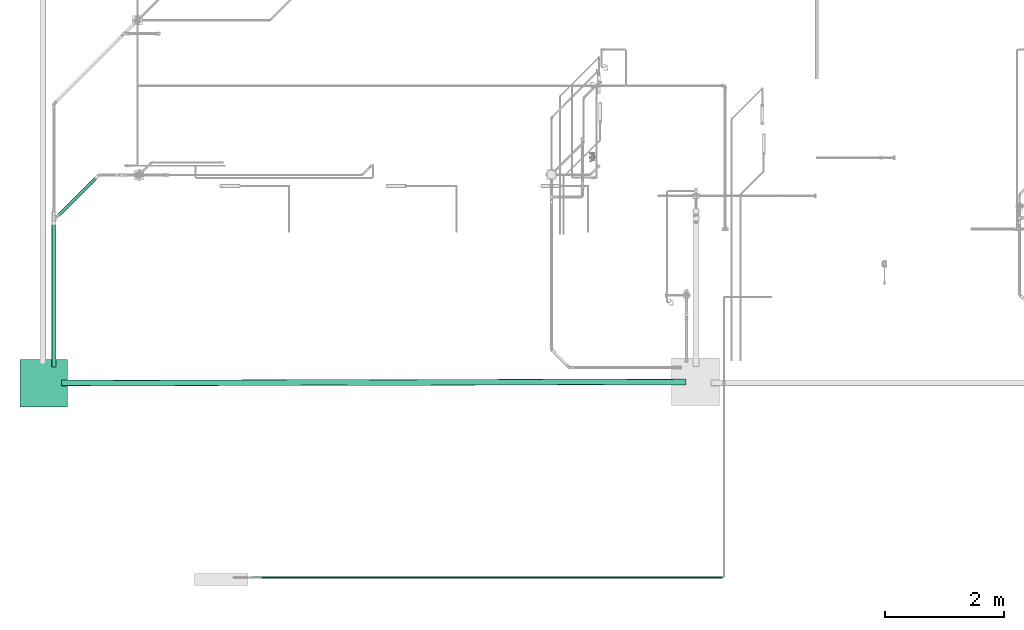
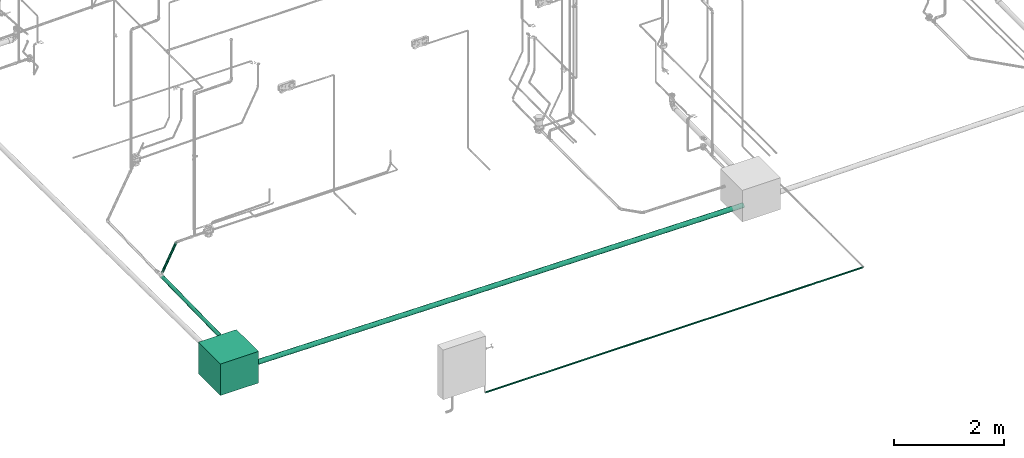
# One storey, part 1 of 589: 4 flow segments, 1 flow terminal.
"""IFC2X3 building model written with IfcOpenShell, lengths in millimetres."""

from ifc_helpers import new_model, entity, si_unit, converted_unit, derived_unit, direction, frame, frame_2d, origin, origin_2d_with_axis, place, context, subcontext, project, spatial, polyline, rectangle, circle, outline, extrude, source, transform, mapped, material, material_list, type_object, type_shapes, element, save


model = new_model("IFC2X3")

# Units and contexts
model_context = context("Model", 3, precision=0.01, world=origin(), true_north=direction((6.123031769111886e-17, 1.0)))
body_context = subcontext(model_context, "Body", "Model", "MODEL_VIEW")
ifc_project = project(units=[si_unit("LENGTHUNIT", "METRE", prefix="MILLI"), si_unit("AREAUNIT", "SQUARE_METRE"), si_unit("VOLUMEUNIT", "CUBIC_METRE"), converted_unit("PLANEANGLEUNIT", "DEGREE", entity("IfcRatioMeasure", 0.017453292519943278), si_unit("PLANEANGLEUNIT", "RADIAN"), dimensions=[0, 0, 0, 0, 0, 0, 0]), si_unit("MASSUNIT", "GRAM", prefix="KILO"), derived_unit("MASSDENSITYUNIT", [(si_unit("MASSUNIT", "GRAM", prefix="KILO"), 1), (si_unit("LENGTHUNIT", "METRE"), -3)]), derived_unit("IONCONCENTRATIONUNIT", [(si_unit("MASSUNIT", "GRAM", prefix="KILO"), 1), (si_unit("LENGTHUNIT", "METRE"), -3)]), derived_unit("MOMENTOFINERTIAUNIT", [(si_unit("LENGTHUNIT", "METRE"), 4)]), si_unit("TIMEUNIT", "SECOND"), si_unit("FREQUENCYUNIT", "HERTZ"), si_unit("THERMODYNAMICTEMPERATUREUNIT", "DEGREE_CELSIUS"), derived_unit("THERMALTRANSMITTANCEUNIT", [(si_unit("MASSUNIT", "GRAM", prefix="KILO"), 1), (si_unit("THERMODYNAMICTEMPERATUREUNIT", "KELVIN"), -1), (si_unit("TIMEUNIT", "SECOND"), -3)]), derived_unit("THERMALCONDUCTANCEUNIT", [(si_unit("MASSUNIT", "GRAM", prefix="KILO"), 1), (si_unit("THERMODYNAMICTEMPERATUREUNIT", "KELVIN"), -1), (si_unit("TIMEUNIT", "SECOND"), -3), (si_unit("LENGTHUNIT", "METRE"), 1)]), derived_unit("VOLUMETRICFLOWRATEUNIT", [(si_unit("LENGTHUNIT", "METRE"), 3), (si_unit("TIMEUNIT", "SECOND"), -1)]), derived_unit("MASSFLOWRATEUNIT", [(si_unit("MASSUNIT", "GRAM", prefix="KILO"), 1), (si_unit("TIMEUNIT", "SECOND"), -1)]), derived_unit("ROTATIONALFREQUENCYUNIT", [(si_unit("TIMEUNIT", "SECOND"), -1)]), si_unit("ELECTRICCURRENTUNIT", "AMPERE"), si_unit("ELECTRICVOLTAGEUNIT", "VOLT"), si_unit("POWERUNIT", "WATT"), si_unit("FORCEUNIT", "NEWTON", prefix="KILO"), si_unit("ILLUMINANCEUNIT", "LUX"), si_unit("LUMINOUSFLUXUNIT", "LUMEN"), si_unit("LUMINOUSINTENSITYUNIT", "CANDELA"), derived_unit("USERDEFINED", [(si_unit("MASSUNIT", "GRAM", prefix="KILO"), -1), (si_unit("LENGTHUNIT", "METRE"), -2), (si_unit("TIMEUNIT", "SECOND"), 3), (si_unit("LUMINOUSFLUXUNIT", "LUMEN"), 1)]), derived_unit("USERDEFINED", [(si_unit("MASSUNIT", "GRAM", prefix="KILO"), 1), (si_unit("TIMEUNIT", "SECOND"), -3), (si_unit("LENGTHUNIT", "METRE"), 3), (si_unit("ELECTRICCURRENTUNIT", "AMPERE"), -2)]), derived_unit("SOUNDPOWERUNIT", [(si_unit("MASSUNIT", "GRAM", prefix="KILO"), 1), (si_unit("TIMEUNIT", "SECOND"), -3), (si_unit("LENGTHUNIT", "METRE"), 2)]), derived_unit("SOUNDPRESSUREUNIT", [(si_unit("MASSUNIT", "GRAM", prefix="KILO"), 1), (si_unit("LENGTHUNIT", "METRE"), -1), (si_unit("TIMEUNIT", "SECOND"), -2)]), derived_unit("LINEARVELOCITYUNIT", [(si_unit("LENGTHUNIT", "METRE"), 1), (si_unit("TIMEUNIT", "SECOND"), -1)]), si_unit("PRESSUREUNIT", "PASCAL"), derived_unit("USERDEFINED", [(si_unit("MASSUNIT", "GRAM", prefix="KILO"), 1), (si_unit("LENGTHUNIT", "METRE"), -2), (si_unit("TIMEUNIT", "SECOND"), -2)]), derived_unit("LINEARFORCEUNIT", [(si_unit("MASSUNIT", "GRAM", prefix="KILO"), 1), (si_unit("TIMEUNIT", "SECOND"), -2)]), derived_unit("PLANARFORCEUNIT", [(si_unit("MASSUNIT", "GRAM", prefix="KILO"), 1), (si_unit("LENGTHUNIT", "METRE"), -1), (si_unit("TIMEUNIT", "SECOND"), -2)]), derived_unit("SPECIFICHEATCAPACITYUNIT", [(si_unit("THERMODYNAMICTEMPERATUREUNIT", "KELVIN"), -1), (si_unit("LENGTHUNIT", "METRE"), 2), (si_unit("TIMEUNIT", "SECOND"), -2)]), derived_unit("HEATINGVALUEUNIT", [(si_unit("LENGTHUNIT", "METRE"), 2), (si_unit("TIMEUNIT", "SECOND"), -2)]), derived_unit("VAPORPERMEABILITYUNIT", [(si_unit("LENGTHUNIT", "METRE"), -1), (si_unit("TIMEUNIT", "SECOND"), 1)]), derived_unit("DYNAMICVISCOSITYUNIT", [(si_unit("MASSUNIT", "GRAM", prefix="KILO"), 1), (si_unit("TIMEUNIT", "SECOND"), -1), (si_unit("LENGTHUNIT", "METRE"), -1)]), derived_unit("THERMALEXPANSIONCOEFFICIENTUNIT", [(si_unit("THERMODYNAMICTEMPERATUREUNIT", "KELVIN"), -1)]), derived_unit("MODULUSOFELASTICITYUNIT", [(si_unit("MASSUNIT", "GRAM", prefix="KILO"), 1), (si_unit("LENGTHUNIT", "METRE"), -1), (si_unit("TIMEUNIT", "SECOND"), -2)]), derived_unit("ISOTHERMALMOISTURECAPACITYUNIT", [(si_unit("LENGTHUNIT", "METRE"), 3), (si_unit("MASSUNIT", "GRAM", prefix="KILO"), -1)]), derived_unit("MOISTUREDIFFUSIVITYUNIT", [(si_unit("TIMEUNIT", "SECOND"), -1), (si_unit("LENGTHUNIT", "METRE"), 2)])], contexts=[model_context])

# Site, building, storey
site_placement = place(None, origin())
site = spatial("IfcSite", under=ifc_project, at=site_placement, Name="Default", CompositionType="ELEMENT")
building_placement = place(site_placement, origin())
building = spatial("IfcBuilding", under=site, at=building_placement, CompositionType="ELEMENT")
storey_placement = place(building_placement, frame((0.0, 0.0, 100.0)))
storey = spatial("IfcBuildingStorey", under=building, at=storey_placement, Name="TÉRREO", CompositionType="ELEMENT", Elevation=100.0)

# Flow segments
pipe_segment_type_1 = type_object("IfcPipeSegmentType", Name="Tipos de tubos:PVC Esgoto Série Normal", PredefinedType="NOTDEFINED")
flow_segment_1_placement = place(storey_placement, origin())
element("IfcFlowSegment", 1, at=flow_segment_1_placement, inside=storey, type_object=pipe_segment_type_1, Name="Tipos de tubos:PVC Esgoto Série Normal", ObjectType="Tipos de tubos:PVC Esgoto Série Normal", context=body_context, shape_type="SweptSolid", body=[
    extrude(circle(Radius=25.0, at=frame_2d((0.0, -3.383790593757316e-14), x_axis=(1.0, 0.0))), frame((-8703.488136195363, -8396.766064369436, -135.53602410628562), z_axis=(0.7070714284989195, 0.7070714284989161, 0.009999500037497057), x_axis=(-0.7071067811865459, 0.7071067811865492, 0.0)), (0.0, 0.0, 1.0), 966.1294355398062),
])
flow_segment_2_placement = place(storey_placement, origin())
element("IfcFlowSegment", 2, at=flow_segment_2_placement, inside=storey, type_object=pipe_segment_type_1, Name="Tipos de tubos:PVC Esgoto Série Normal", ObjectType="Tipos de tubos:PVC Esgoto Série Normal", context=body_context, shape_type="SweptSolid", body=[
    extrude(circle(Radius=37.5, at=frame_2d((0.0, -4.33060248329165e-14), x_axis=(1.0, 0.0))), frame((-8768.043757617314, -10926.610341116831, -185.7547515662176), z_axis=(0.0, 0.999800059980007, 0.019996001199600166), x_axis=(-1.0, 0.0, 0.0)), (0.0, 0.0, 1.0), 2415.6816637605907),
])
flow_segment_3_placement = place(storey_placement, origin())
element("IfcFlowSegment", 3, at=flow_segment_3_placement, inside=storey, type_object=pipe_segment_type_1, Name="Tipos de tubos:PVC Esgoto Série Normal", ObjectType="Tipos de tubos:PVC Esgoto Série Normal", context=body_context, shape_type="SweptSolid", body=[
    extrude(circle(Radius=50.0, at=frame_2d((-1.0547470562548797e-15, 6.22552147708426e-14), x_axis=(1.0, 0.0))), frame((1851.3092454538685, -11177.101274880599, -655.0), z_axis=(-0.9999479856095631, -0.001947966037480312, 0.010011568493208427), x_axis=(0.0019480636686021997, -0.9999981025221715, 0.0)), (0.0, 0.0, 1.0), 10487.867118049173),
])
pipe_segment_type_2 = type_object("IfcPipeSegmentType", Name="Tipos de tubos:PVC Marrom Soldável", PredefinedType="NOTDEFINED")
flow_segment_4_placement = place(storey_placement, origin())
element("IfcFlowSegment", 4, at=flow_segment_4_placement, inside=storey, type_object=pipe_segment_type_2, Name="Tipos de tubos:PVC Marrom Soldável", ObjectType="Tipos de tubos:PVC Marrom Soldável", context=body_context, shape_type="SweptSolid", body=[
    extrude(circle(Radius=12.5, at=frame_2d((0.0, -1.6919798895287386e-14), x_axis=(1.0, 0.0))), frame((-5440.584919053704, -14466.3278745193, -250.0), z_axis=(1.0, 0.0, 0.0), x_axis=(0.0, -1.0, 0.0)), (0.0, 0.0, 1.0), 7907.717092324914),
])

# Flow terminal
ifc_material_1 = material(Name="<Unnamed>")
ifc_material_2 = material(Name="Tijolo, Comum")
ifc_material_3 = material(Name=".CONCRETO")
ifc_material_list = material_list([ifc_material_1, ifc_material_2, ifc_material_3])
distribution_element_type = type_object("IfcDistributionElementType", Name="Caixa em Alvenaria_Rodrigo MEP:Caixa de Inspeçao de Esgoto 60x60cm - CI", material=ifc_material_list)
shared_shape = source(origin(), body_context, "Body", "SweptSolid", [
    extrude(circle(Radius=50.0, at=frame_2d((1.6919798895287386e-14, -2.0303758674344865e-13), x_axis=(1.0, 0.0))), frame((297.0, -150.0, -550.0), z_axis=(1.0, 0.0, 0.0), x_axis=(0.0, -1.0, 0.0)), (0.0, 0.0, 1.0), 2.9999999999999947),
    extrude(circle(Radius=50.0, at=frame_2d((0.0, -2.0303758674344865e-13), x_axis=(1.0, 0.0))), frame((297.0, 150.0, -550.0), z_axis=(1.0, 0.0, 0.0), x_axis=(0.0, -1.0, 0.0)), (0.0, 0.0, 1.0), 2.9999999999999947),
    extrude(circle(Radius=50.0, at=frame_2d((0.0, -6.767919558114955e-14), x_axis=(1.0, 0.0))), frame((-300.0, 136.27378055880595, -550.0), z_axis=(1.0, 0.0, 0.0), x_axis=(0.0, 1.0, 0.0)), (0.0, 0.0, 1.0), 2.9999999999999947),
    extrude(circle(Radius=50.0, at=frame_2d((-1.6919798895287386e-14, -6.767919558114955e-14), x_axis=(1.0, 0.0))), frame((-300.0, -150.0, -550.0), z_axis=(1.0, 0.0, 0.0), x_axis=(0.0, 1.0, 0.0)), (0.0, 0.0, 1.0), 2.9999999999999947),
    extrude(circle(Radius=50.0, at=frame_2d((-1.6919798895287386e-14, -2.707167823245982e-13), x_axis=(1.0, 0.0))), frame((150.0, 297.0, -550.0), z_axis=(0.0, 1.0, 0.0), x_axis=(1.0, 0.0, 0.0)), (0.0, 0.0, 1.0), 2.9999999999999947),
    extrude(circle(Radius=50.0, at=frame_2d((0.0, -2.707167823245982e-13), x_axis=(1.0, 0.0))), frame((-150.0, 297.0, -550.0), z_axis=(0.0, 1.0, 0.0), x_axis=(1.0, 0.0, 0.0)), (0.0, 0.0, 1.0), 2.9999999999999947),
    extrude(circle(Radius=50.0, at=frame_2d((-1.307310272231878e-17, -2.707167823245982e-13), x_axis=(1.0, 0.0))), frame((297.0, 0.0, -550.0), z_axis=(1.0, 0.0, 0.0), x_axis=(0.0, -1.0, 0.0)), (0.0, 0.0, 1.0), 2.9999999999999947),
    extrude(circle(Radius=50.0, at=frame_2d((1.9003610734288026e-15, -6.767919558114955e-14), x_axis=(1.0, 0.0))), frame((-300.0, 0.0, -550.0), z_axis=(1.0, 0.0, 0.0), x_axis=(0.0, 1.0, 0.0)), (0.0, 0.0, 1.0), 2.9999999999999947),
    extrude(circle(Radius=50.0, at=frame_2d((-1.9105340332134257e-15, -2.707167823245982e-13), x_axis=(1.0, 0.0))), frame((0.0, 297.0, -550.0), z_axis=(0.0, 1.0, 0.0), x_axis=(1.0, 0.0, 0.0)), (0.0, 0.0, 1.0), 2.9999999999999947),
    extrude(outline(polyline([(-400.0, -400.0), (400.0, -400.0), (400.0, 400.0), (-400.0, 400.0), (-400.0, -400.0)]), holes=[polyline([(-300.0, 300.0), (300.0, 300.0), (300.0, -300.0), (-300.0, -300.0), (-300.0, 300.0)])]), frame((0.0, 0.0, -600.0)), (0.0, 0.0, 1.0), 599.9999999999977),
    extrude(rectangle(XDim=798.0000000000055, YDim=798.0, at=origin_2d_with_axis()), frame((0.0, 0.0, -700.0), z_axis=(0.0, 0.0, 1.0), x_axis=(-1.0, 0.0, 0.0)), (0.0, 0.0, 1.0), 99.99999999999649),
    extrude(circle(Radius=50.0, at=frame_2d((0.0, -2.707167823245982e-13), x_axis=(1.0, 0.0))), frame((0.0, -300.0, -550.0), z_axis=(0.0, 1.0, 0.0), x_axis=(1.0, 0.0, 0.0)), (0.0, 0.0, 1.0), 0.9999999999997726),
    extrude(rectangle(XDim=599.9999999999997, YDim=599.9999999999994, at=origin_2d_with_axis()), frame((0.0, 0.0, -50.51158969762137), z_axis=(0.0, 0.0, 1.0), x_axis=(0.0, 1.0, 0.0)), (0.0, 0.0, 1.0), 50.51158969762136),
])
type_shapes(distribution_element_type, [shared_shape])
flow_terminal_placement = place(storey_placement, frame((-8936.012352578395, -11197.531283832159, 0.0), z_axis=(0.0, 0.0, 1.0), x_axis=(-1.0, 0.0, 0.0)))
element("IfcFlowTerminal", 5, at=flow_terminal_placement, inside=storey, type_object=distribution_element_type, material=ifc_material_list, Name="Caixa em Alvenaria_Rodrigo MEP:Caixa de Inspeçao de Esgoto 60x60cm - CI", ObjectType="Caixa em Alvenaria_Rodrigo MEP:Caixa de Inspeçao de Esgoto 60x60cm - CI", context=body_context, shape_type="MappedRepresentation", body=[
    mapped(shared_shape, transform((0.0, 0.0, 0.0), scale=1.0)),
])

save(model, "model.ifc")
